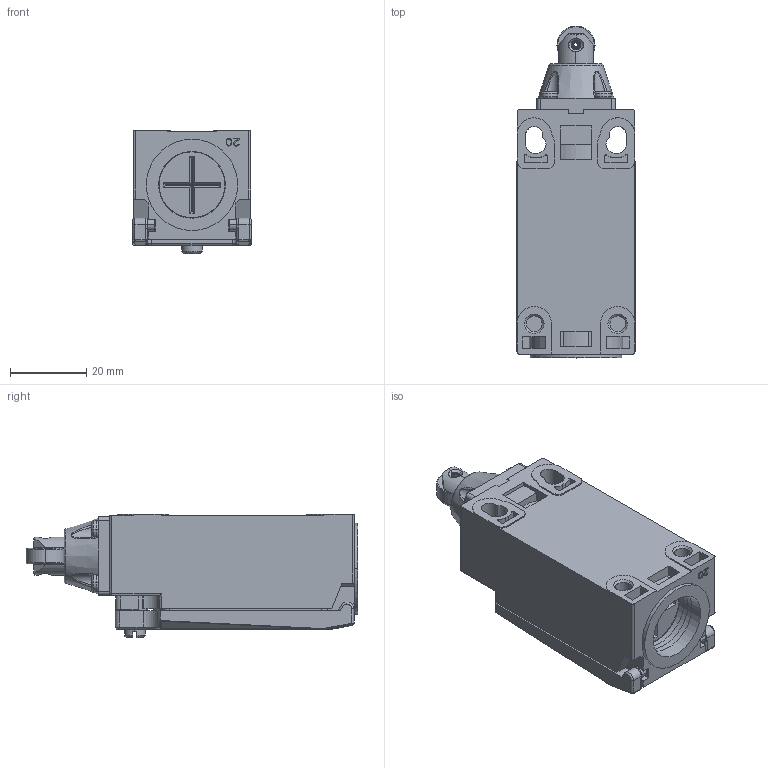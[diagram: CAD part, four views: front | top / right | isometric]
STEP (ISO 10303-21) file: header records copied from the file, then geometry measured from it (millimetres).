
FILE_DESCRIPTION(/* description */ (''),/* implementation_level */ '2;1');
FILE_NAME(/* name */ 'ALS3-P...A2.stp',/* time_stamp */ '2022-04-21T14:57:12+08:00',/* author */ (''),/* organization */ (''),/* preprocessor_version */ 'ST-DEVELOPER v16.7',/* originating_system */ 'SIEMENS PLM Software NX 12.0',/* authorisation */ '');
FILE_SCHEMA (('AUTOMOTIVE_DESIGN { 1 0 10303 214 3 1 1 1 }'));
Length unit declared in the file: millimetre
Products named in the file (10): 尾塞; ST25X6自攻螺丝; 弹性销; 4132-A金属轮; 4132-A头部推杆; M3X9; 20210810COVER_BODY; 基座; 头部基座; ALS3-P...A2_stp
Assembly tree (13 placements, depth 2):
  ALS3-P...A2_stp
    头部基座
    基座
    20210810COVER_BODY
    M3X9
    4132-A头部推杆
    4132-A金属轮
    弹性销
    ST25X6自攻螺丝  x5
    尾塞
Bounding box: 31 x 87.17 x 32.37 mm (x, y, z)
Volume: 26560.3 mm3; surface area: 26757.8 mm2
Topology: 13 solids, 13 shells, 1160 faces, 3052 edges, 1947 vertices
Faces by surface type: plane 616, cylinder 307, cone 89, torus 71, bspline 51, sphere 24, extrusion 2
Full cylindrical faces by diameter (mm): 2.5 x4, 10.5 x1
Entity records: 36777 total; most frequent: CARTESIAN_POINT 9986, ORIENTED_EDGE 5632, DIRECTION 5427, EDGE_CURVE 2816, AXIS2_PLACEMENT_3D 1848, VERTEX_POINT 1816, VECTOR 1731, LINE 1729
